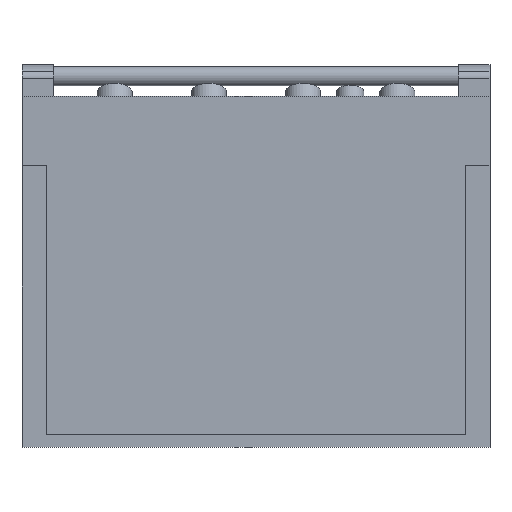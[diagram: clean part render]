
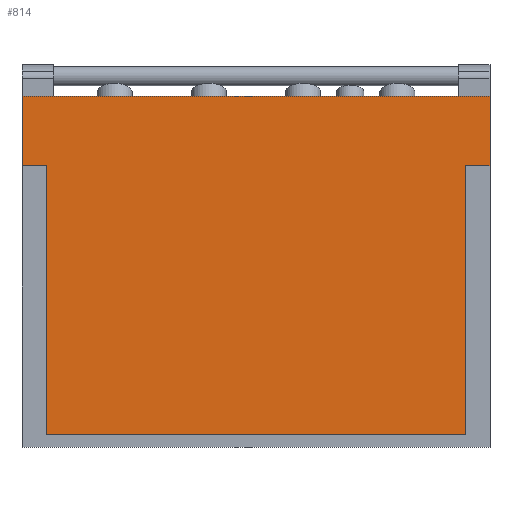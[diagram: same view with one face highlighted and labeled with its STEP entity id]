
A CAD part, front view. The second image highlights one B-rep face of the part: STEP entity #814.
In plain terms, the highlighted planar face has unit normal (0, -1, 0).
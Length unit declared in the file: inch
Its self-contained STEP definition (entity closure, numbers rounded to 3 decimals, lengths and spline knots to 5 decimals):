
#8 = VERTEX_POINT ( 'NONE', #1031 ) ;
#19 = ORIENTED_EDGE ( 'NONE', *, *, #677, .T. ) ;
#20 = ORIENTED_EDGE ( 'NONE', *, *, #1274, .T. ) ;
#27 = ORIENTED_EDGE ( 'NONE', *, *, #755, .T. ) ;
#30 = ORIENTED_EDGE ( 'NONE', *, *, #598, .F. ) ;
#105 = ORIENTED_EDGE ( 'NONE', *, *, #577, .F. ) ;
#207 = CARTESIAN_POINT ( 'NONE',  ( -15., -9.48387, -10.6745 ) ) ;
#235 = CARTESIAN_POINT ( 'NONE',  ( -15., -9.48387, 8.58492 ) ) ;
#318 = VECTOR ( 'NONE', #842, 39.37008 ) ;
#323 = VERTEX_POINT ( 'NONE', #397 ) ;
#339 = VECTOR ( 'NONE', #880, 39.37008 ) ;
#340 = DIRECTION ( 'NONE',  ( 0., 0., -1. ) ) ;
#359 = CARTESIAN_POINT ( 'NONE',  ( 16.75, -9.48387, 13.58492 ) ) ;
#364 = LINE ( 'NONE', #235, #339 ) ;
#397 = CARTESIAN_POINT ( 'NONE',  ( 15., -9.48387, 8.58492 ) ) ;
#464 = ORIENTED_EDGE ( 'NONE', *, *, #494, .F. ) ;
#479 = VECTOR ( 'NONE', #1046, 39.37008 ) ;
#494 = EDGE_CURVE ( 'NONE', #323, #1189, #718, .T. ) ;
#506 = EDGE_CURVE ( 'NONE', #1189, #1494, #914, .T. ) ;
#548 = CARTESIAN_POINT ( 'NONE',  ( -16.75, -9.48387, 8.58492 ) ) ;
#577 = EDGE_CURVE ( 'NONE', #8, #807, #364, .T. ) ;
#598 = EDGE_CURVE ( 'NONE', #1415, #1053, #1187, .T. ) ;
#656 = LINE ( 'NONE', #790, #1159 ) ;
#677 = EDGE_CURVE ( 'NONE', #1208, #807, #656, .T. ) ;
#718 = LINE ( 'NONE', #1118, #1229 ) ;
#728 = DIRECTION ( 'NONE',  ( -1., 0., 0. ) ) ;
#734 = CARTESIAN_POINT ( 'NONE',  ( 16.75, -9.48387, 13.58492 ) ) ;
#737 = LINE ( 'NONE', #734, #937 ) ;
#755 = EDGE_CURVE ( 'NONE', #323, #1053, #1314, .T. ) ;
#756 = DIRECTION ( 'NONE',  ( 0., 0., -1. ) ) ;
#761 = VECTOR ( 'NONE', #902, 39.37008 ) ;
#790 = CARTESIAN_POINT ( 'NONE',  ( -16.75, -9.48387, 13.58492 ) ) ;
#807 = VERTEX_POINT ( 'NONE', #548 ) ;
#814 = ADVANCED_FACE ( 'NONE', ( #1463 ), #1411, .F. ) ;
#820 = CARTESIAN_POINT ( 'NONE',  ( 15., -9.48387, 8.58492 ) ) ;
#842 = DIRECTION ( 'NONE',  ( 1., 0., 0. ) ) ;
#880 = DIRECTION ( 'NONE',  ( -1., 0., 0. ) ) ;
#902 = DIRECTION ( 'NONE',  ( 0., 0., -1. ) ) ;
#905 = CARTESIAN_POINT ( 'NONE',  ( -16.75, -9.48387, 13.58492 ) ) ;
#914 = LINE ( 'NONE', #966, #936 ) ;
#916 = CARTESIAN_POINT ( 'NONE',  ( 15., -9.48387, -10.6745 ) ) ;
#936 = VECTOR ( 'NONE', #1218, 39.37008 ) ;
#937 = VECTOR ( 'NONE', #728, 39.37008 ) ;
#966 = CARTESIAN_POINT ( 'NONE',  ( 16.75, -9.48387, -10.6745 ) ) ;
#1029 = CARTESIAN_POINT ( 'NONE',  ( 16.75, -9.48387, 13.58492 ) ) ;
#1031 = CARTESIAN_POINT ( 'NONE',  ( -15., -9.48387, 8.58492 ) ) ;
#1046 = DIRECTION ( 'NONE',  ( 0., 0., -1. ) ) ;
#1051 = CARTESIAN_POINT ( 'NONE',  ( -15., -9.48387, -10.6745 ) ) ;
#1053 = VERTEX_POINT ( 'NONE', #1120 ) ;
#1054 = DIRECTION ( 'NONE',  ( 0., 1., 0. ) ) ;
#1063 = DIRECTION ( 'NONE',  ( 0., 0., 1. ) ) ;
#1074 = LINE ( 'NONE', #1051, #479 ) ;
#1078 = EDGE_CURVE ( 'NONE', #8, #1494, #1074, .T. ) ;
#1118 = CARTESIAN_POINT ( 'NONE',  ( 15., -9.48387, -10.6745 ) ) ;
#1120 = CARTESIAN_POINT ( 'NONE',  ( 16.75, -9.48387, 8.58492 ) ) ;
#1159 = VECTOR ( 'NONE', #756, 39.37008 ) ;
#1182 = ORIENTED_EDGE ( 'NONE', *, *, #506, .F. ) ;
#1187 = LINE ( 'NONE', #1029, #761 ) ;
#1189 = VERTEX_POINT ( 'NONE', #916 ) ;
#1208 = VERTEX_POINT ( 'NONE', #905 ) ;
#1218 = DIRECTION ( 'NONE',  ( -1., 0., 0. ) ) ;
#1229 = VECTOR ( 'NONE', #340, 39.37008 ) ;
#1274 = EDGE_CURVE ( 'NONE', #1415, #1208, #737, .T. ) ;
#1290 = AXIS2_PLACEMENT_3D ( 'NONE', #1525, #1054, #1063 ) ;
#1314 = LINE ( 'NONE', #820, #318 ) ;
#1411 = PLANE ( 'NONE',  #1290 ) ;
#1415 = VERTEX_POINT ( 'NONE', #359 ) ;
#1428 = ORIENTED_EDGE ( 'NONE', *, *, #1078, .T. ) ;
#1463 = FACE_OUTER_BOUND ( 'NONE', #1542, .T. ) ;
#1494 = VERTEX_POINT ( 'NONE', #207 ) ;
#1525 = CARTESIAN_POINT ( 'NONE',  ( 16.75, -9.48387, 13.58492 ) ) ;
#1542 = EDGE_LOOP ( 'NONE', ( #105, #1428, #1182, #464, #27, #30, #20, #19 ) ) ;
